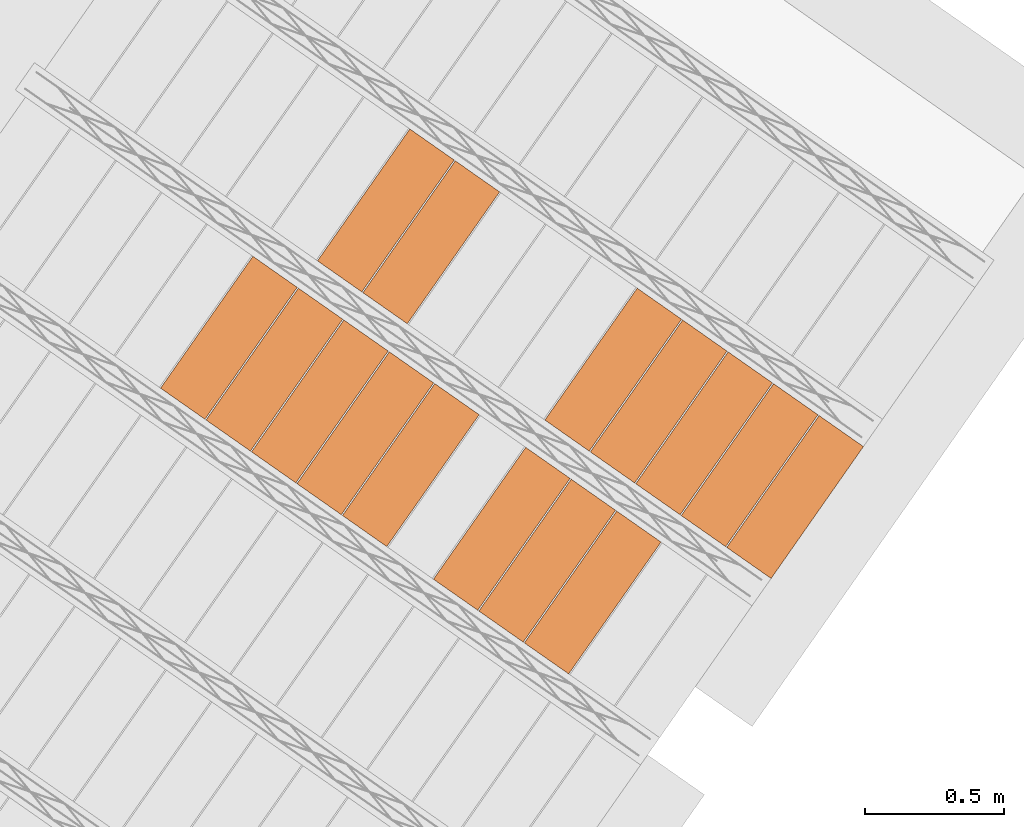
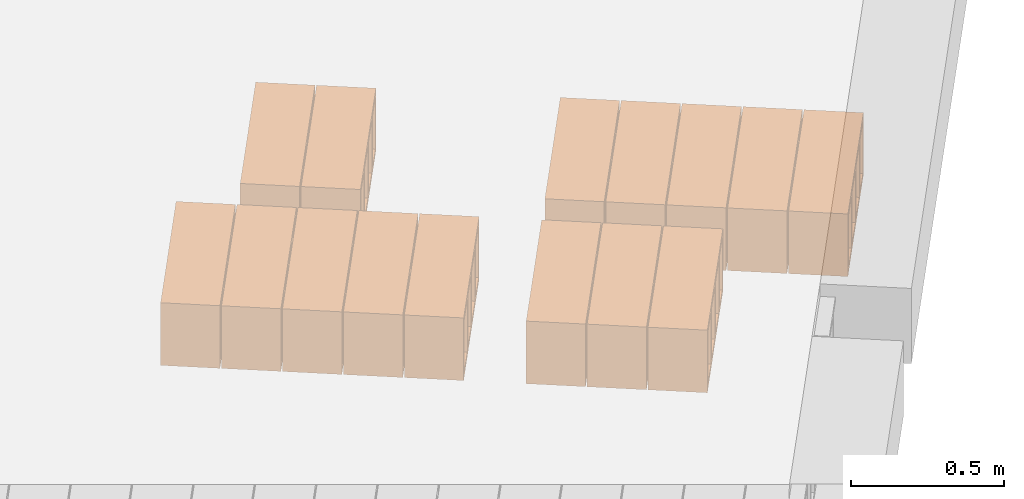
# One storey, part 39 of 46: 15 proxies.
"""IFC2X3 building model written with IfcOpenShell, lengths in metres."""

from ifc_helpers import new_model, entity, si_unit, converted_unit, derived_unit, direction, frame, origin, place, context, subcontext, project, spatial, polyline, outline, extrude, type_object, element, save


model = new_model("IFC2X3")

# Units and contexts
model_context = context("Model", 3, precision=1e-05, world=origin(), true_north=direction((6.123031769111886e-17, 1.0)))
body_context = subcontext(model_context, "Body", "Model", "MODEL_VIEW")
ifc_project = project(units=[si_unit("LENGTHUNIT", "METRE"), si_unit("AREAUNIT", "SQUARE_METRE"), si_unit("VOLUMEUNIT", "CUBIC_METRE"), converted_unit("PLANEANGLEUNIT", "DEGREE", entity("IfcPlaneAngleMeasure", 0.017453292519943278), si_unit("PLANEANGLEUNIT", "RADIAN"), dimensions=[0, 0, 0, 0, 0, 0, 0]), si_unit("MASSUNIT", "GRAM", prefix="KILO"), derived_unit("MASSDENSITYUNIT", [(si_unit("MASSUNIT", "GRAM", prefix="KILO"), 1), (si_unit("LENGTHUNIT", "METRE"), -3)]), derived_unit("IONCONCENTRATIONUNIT", [(si_unit("MASSUNIT", "GRAM", prefix="KILO"), 1), (si_unit("LENGTHUNIT", "METRE"), -3)]), derived_unit("MOMENTOFINERTIAUNIT", [(si_unit("LENGTHUNIT", "METRE"), 4)]), si_unit("TIMEUNIT", "SECOND"), si_unit("FREQUENCYUNIT", "HERTZ"), si_unit("THERMODYNAMICTEMPERATUREUNIT", "DEGREE_CELSIUS"), derived_unit("THERMALTRANSMITTANCEUNIT", [(si_unit("MASSUNIT", "GRAM", prefix="KILO"), 1), (si_unit("THERMODYNAMICTEMPERATUREUNIT", "KELVIN"), -1), (si_unit("TIMEUNIT", "SECOND"), -3)]), derived_unit("THERMALCONDUCTANCEUNIT", [(si_unit("MASSUNIT", "GRAM", prefix="KILO"), 1), (si_unit("THERMODYNAMICTEMPERATUREUNIT", "KELVIN"), -1), (si_unit("TIMEUNIT", "SECOND"), -3), (si_unit("LENGTHUNIT", "METRE"), 1)]), derived_unit("VOLUMETRICFLOWRATEUNIT", [(si_unit("LENGTHUNIT", "METRE", prefix="DECI"), 3), (si_unit("TIMEUNIT", "SECOND"), -1)]), derived_unit("MASSFLOWRATEUNIT", [(si_unit("MASSUNIT", "GRAM", prefix="KILO"), 1), (si_unit("TIMEUNIT", "SECOND"), -1)]), derived_unit("ROTATIONALFREQUENCYUNIT", [(si_unit("TIMEUNIT", "SECOND"), -1)]), si_unit("ELECTRICCURRENTUNIT", "AMPERE"), si_unit("ELECTRICVOLTAGEUNIT", "VOLT"), si_unit("POWERUNIT", "WATT"), si_unit("FORCEUNIT", "NEWTON", prefix="KILO"), si_unit("ILLUMINANCEUNIT", "LUX"), si_unit("LUMINOUSFLUXUNIT", "LUMEN"), si_unit("LUMINOUSINTENSITYUNIT", "CANDELA"), si_unit("ENERGYUNIT", "JOULE"), derived_unit("USERDEFINED", [(si_unit("MASSUNIT", "GRAM", prefix="KILO"), -1), (si_unit("LENGTHUNIT", "METRE"), -2), (si_unit("TIMEUNIT", "SECOND"), 3), (si_unit("LUMINOUSFLUXUNIT", "LUMEN"), 1)]), derived_unit("USERDEFINED", [(si_unit("MASSUNIT", "GRAM", prefix="KILO"), 1), (si_unit("TIMEUNIT", "SECOND"), -3), (si_unit("LENGTHUNIT", "METRE"), 3), (si_unit("ELECTRICCURRENTUNIT", "AMPERE"), -2)]), derived_unit("SOUNDPOWERUNIT", [(si_unit("MASSUNIT", "GRAM", prefix="KILO"), 1), (si_unit("TIMEUNIT", "SECOND"), -3), (si_unit("LENGTHUNIT", "METRE"), 2)]), derived_unit("SOUNDPRESSUREUNIT", [(si_unit("MASSUNIT", "GRAM", prefix="KILO"), 1), (si_unit("LENGTHUNIT", "METRE"), -1), (si_unit("TIMEUNIT", "SECOND"), -2)]), derived_unit("LINEARVELOCITYUNIT", [(si_unit("LENGTHUNIT", "METRE"), 1), (si_unit("TIMEUNIT", "SECOND"), -1)]), si_unit("PRESSUREUNIT", "PASCAL"), derived_unit("USERDEFINED", [(si_unit("MASSUNIT", "GRAM", prefix="KILO"), 1), (si_unit("LENGTHUNIT", "METRE"), -2), (si_unit("TIMEUNIT", "SECOND"), -2)]), derived_unit("LINEARFORCEUNIT", [(si_unit("MASSUNIT", "GRAM", prefix="KILO"), 1), (si_unit("TIMEUNIT", "SECOND"), -2)]), derived_unit("PLANARFORCEUNIT", [(si_unit("MASSUNIT", "GRAM", prefix="KILO"), 1), (si_unit("LENGTHUNIT", "METRE"), -1), (si_unit("TIMEUNIT", "SECOND"), -2)]), derived_unit("SPECIFICHEATCAPACITYUNIT", [(si_unit("THERMODYNAMICTEMPERATUREUNIT", "KELVIN"), -1), (si_unit("LENGTHUNIT", "METRE"), 2), (si_unit("TIMEUNIT", "SECOND"), -2)]), derived_unit("HEATFLUXDENSITYUNIT", [(si_unit("MASSUNIT", "GRAM", prefix="KILO"), 1), (si_unit("TIMEUNIT", "SECOND"), -3)]), derived_unit("HEATINGVALUEUNIT", [(si_unit("LENGTHUNIT", "METRE"), 2), (si_unit("TIMEUNIT", "SECOND"), -2)]), derived_unit("VAPORPERMEABILITYUNIT", [(si_unit("LENGTHUNIT", "METRE"), -1), (si_unit("TIMEUNIT", "SECOND"), 1)]), derived_unit("DYNAMICVISCOSITYUNIT", [(si_unit("MASSUNIT", "GRAM", prefix="KILO"), 1), (si_unit("TIMEUNIT", "SECOND"), -1), (si_unit("LENGTHUNIT", "METRE"), -1)]), derived_unit("THERMALEXPANSIONCOEFFICIENTUNIT", [(si_unit("THERMODYNAMICTEMPERATUREUNIT", "KELVIN"), -1)]), derived_unit("MODULUSOFELASTICITYUNIT", [(si_unit("MASSUNIT", "GRAM", prefix="KILO"), 1), (si_unit("LENGTHUNIT", "METRE"), -1), (si_unit("TIMEUNIT", "SECOND"), -2)]), derived_unit("ISOTHERMALMOISTURECAPACITYUNIT", [(si_unit("MASSUNIT", "GRAM", prefix="KILO"), -1), (si_unit("LENGTHUNIT", "METRE"), 3)]), derived_unit("MOISTUREDIFFUSIVITYUNIT", [(si_unit("TIMEUNIT", "SECOND"), -1), (si_unit("LENGTHUNIT", "METRE"), 2)]), derived_unit("MASSPERLENGTHUNIT", [(si_unit("MASSUNIT", "GRAM", prefix="KILO"), 1), (si_unit("LENGTHUNIT", "METRE"), -1)]), derived_unit("THERMALRESISTANCEUNIT", [(si_unit("MASSUNIT", "GRAM", prefix="KILO"), -1), (si_unit("TIMEUNIT", "SECOND"), 3), (si_unit("THERMODYNAMICTEMPERATUREUNIT", "KELVIN"), 1)]), derived_unit("ACCELERATIONUNIT", [(si_unit("LENGTHUNIT", "METRE"), 1), (si_unit("TIMEUNIT", "SECOND"), -2)]), derived_unit("ANGULARVELOCITYUNIT", [(si_unit("TIMEUNIT", "SECOND"), -1), (si_unit("PLANEANGLEUNIT", "RADIAN"), 1)]), derived_unit("LINEARSTIFFNESSUNIT", [(si_unit("MASSUNIT", "GRAM", prefix="KILO"), 1), (si_unit("TIMEUNIT", "SECOND"), -2)]), derived_unit("WARPINGCONSTANTUNIT", [(si_unit("LENGTHUNIT", "METRE"), 6)]), derived_unit("LINEARMOMENTUNIT", [(si_unit("MASSUNIT", "GRAM", prefix="KILO"), 1), (si_unit("LENGTHUNIT", "METRE"), 1), (si_unit("TIMEUNIT", "SECOND"), -2)]), derived_unit("TORQUEUNIT", [(si_unit("MASSUNIT", "GRAM", prefix="KILO"), 1), (si_unit("LENGTHUNIT", "METRE"), 2), (si_unit("TIMEUNIT", "SECOND"), -2)])], contexts=[model_context])

# Site, building, storey
site_placement = place(None, origin())
site = spatial("IfcSite", under=ifc_project, at=site_placement, Name="Default", CompositionType="ELEMENT")
building_placement = place(site_placement, origin())
building = spatial("IfcBuilding", under=site, at=building_placement, CompositionType="ELEMENT")
storey_placement = place(building_placement, frame((0.0, 0.0, 99.52000000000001)))
storey = spatial("IfcBuildingStorey", under=building, at=storey_placement, Name="F1", CompositionType="ELEMENT", Elevation=99.52000000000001)

# Proxies
building_element_proxy_type_1 = type_object("IfcBuildingElementProxyType", Name="Bovedilla 6-3 (Paño 4)", PredefinedType="USERDEFINED")
proxy_1_placement = place(storey_placement, origin())
element("IfcBuildingElementProxy", 1, at=proxy_1_placement, inside=storey, type_object=building_element_proxy_type_1, Name="Bovedilla 6-3 (Paño 4)", ObjectType="FORM", context=body_context, shape_type="SweptSolid", body=[
    extrude(outline(polyline([(-0.29, -0.12500000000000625), (0.29, -0.12500000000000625), (0.29, 0.12500000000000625), (-0.29, 0.12500000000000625), (-0.29, -0.12500000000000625)]), holes=[polyline([(0.27000000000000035, -0.10499999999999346), (0.15499999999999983, -0.10499999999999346), (0.15499999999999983, 0.10499999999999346), (0.27000000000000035, 0.10499999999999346), (0.27000000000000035, 0.042499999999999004), (0.27000000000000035, -0.10499999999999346)]), polyline([(0.009999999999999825, -0.10499999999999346), (0.009999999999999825, 0.10499999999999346), (0.13500000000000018, 0.10499999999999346), (0.13500000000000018, -0.10499999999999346), (0.009999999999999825, -0.10499999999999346)]), polyline([(-0.13500000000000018, 0.10499999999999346), (-0.009999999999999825, 0.10499999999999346), (-0.009999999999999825, -0.10499999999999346), (-0.13500000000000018, -0.10499999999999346), (-0.13500000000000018, 0.10499999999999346)]), polyline([(-0.27000000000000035, -0.10499999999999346), (-0.27000000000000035, 0.042499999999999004), (-0.27000000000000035, 0.10499999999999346), (-0.15499999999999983, 0.10499999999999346), (-0.15499999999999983, -0.10499999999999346), (-0.27000000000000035, -0.10499999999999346)])]), frame((8.830345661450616, -2.154173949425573, 0.3249999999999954), z_axis=(0.819152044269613, -0.5735764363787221, 0.0), x_axis=(-0.5735764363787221, -0.819152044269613, 0.0)), (0.0, 0.0, 1.0), 0.19499999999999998),
])
building_element_proxy_type_2 = type_object("IfcBuildingElementProxyType", Name="Bovedilla 6-4 (Paño 4)", PredefinedType="USERDEFINED")
proxy_2_placement = place(storey_placement, origin())
element("IfcBuildingElementProxy", 2, at=proxy_2_placement, inside=storey, type_object=building_element_proxy_type_2, Name="Bovedilla 6-4 (Paño 4)", ObjectType="FORM", context=body_context, shape_type="SweptSolid", body=[
    extrude(outline(polyline([(-0.29, -0.12500000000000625), (0.29, -0.12500000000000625), (0.29, 0.12500000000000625), (-0.29, 0.12500000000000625), (-0.29, -0.12500000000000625)]), holes=[polyline([(0.27000000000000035, -0.10499999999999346), (0.15499999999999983, -0.10499999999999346), (0.15499999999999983, 0.10499999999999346), (0.27000000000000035, 0.10499999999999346), (0.27000000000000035, 0.042499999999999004), (0.27000000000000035, -0.10499999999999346)]), polyline([(0.009999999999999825, -0.10499999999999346), (0.009999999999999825, 0.10499999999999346), (0.13500000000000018, 0.10499999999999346), (0.13500000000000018, -0.10499999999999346), (0.009999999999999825, -0.10499999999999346)]), polyline([(-0.13500000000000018, 0.10499999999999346), (-0.009999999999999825, 0.10499999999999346), (-0.009999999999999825, -0.10499999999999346), (-0.13500000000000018, -0.10499999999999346), (-0.13500000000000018, 0.10499999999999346)]), polyline([(-0.27000000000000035, -0.10499999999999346), (-0.27000000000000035, 0.042499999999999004), (-0.27000000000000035, 0.10499999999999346), (-0.15499999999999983, 0.10499999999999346), (-0.15499999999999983, -0.10499999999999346), (-0.27000000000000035, -0.10499999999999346)])]), frame((8.666515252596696, -2.0394586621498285, 0.3249999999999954), z_axis=(0.819152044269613, -0.5735764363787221, 0.0), x_axis=(-0.5735764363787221, -0.819152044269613, 0.0)), (0.0, 0.0, 1.0), 0.19499999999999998),
])
building_element_proxy_type_3 = type_object("IfcBuildingElementProxyType", Name="Bovedilla 6-5 (Paño 4)", PredefinedType="USERDEFINED")
proxy_3_placement = place(storey_placement, origin())
element("IfcBuildingElementProxy", 3, at=proxy_3_placement, inside=storey, type_object=building_element_proxy_type_3, Name="Bovedilla 6-5 (Paño 4)", ObjectType="FORM", context=body_context, shape_type="SweptSolid", body=[
    extrude(outline(polyline([(-0.29, -0.12500000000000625), (0.29, -0.12500000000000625), (0.29, 0.12500000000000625), (-0.29, 0.12500000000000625), (-0.29, -0.12500000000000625)]), holes=[polyline([(0.27000000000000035, -0.10499999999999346), (0.15499999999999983, -0.10499999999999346), (0.15499999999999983, 0.10499999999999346), (0.27000000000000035, 0.10499999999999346), (0.27000000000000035, 0.042499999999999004), (0.27000000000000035, -0.10499999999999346)]), polyline([(0.009999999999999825, -0.10499999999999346), (0.009999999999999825, 0.10499999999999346), (0.13500000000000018, 0.10499999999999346), (0.13500000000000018, -0.10499999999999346), (0.009999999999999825, -0.10499999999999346)]), polyline([(-0.13500000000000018, 0.10499999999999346), (-0.009999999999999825, 0.10499999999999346), (-0.009999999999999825, -0.10499999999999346), (-0.13500000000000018, -0.10499999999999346), (-0.13500000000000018, 0.10499999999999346)]), polyline([(-0.27000000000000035, -0.10499999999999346), (-0.27000000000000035, 0.042499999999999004), (-0.27000000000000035, 0.10499999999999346), (-0.15499999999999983, 0.10499999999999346), (-0.15499999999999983, -0.10499999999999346), (-0.27000000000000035, -0.10499999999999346)])]), frame((8.502684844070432, -1.9247433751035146, 0.3249999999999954), z_axis=(0.819152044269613, -0.5735764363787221, 0.0), x_axis=(-0.5735764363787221, -0.819152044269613, 0.0)), (0.0, 0.0, 1.0), 0.19499999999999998),
])
building_element_proxy_type_4 = type_object("IfcBuildingElementProxyType", Name="Bovedilla 6-7 (Paño 4)", PredefinedType="USERDEFINED")
proxy_4_placement = place(storey_placement, origin())
element("IfcBuildingElementProxy", 4, at=proxy_4_placement, inside=storey, type_object=building_element_proxy_type_4, Name="Bovedilla 6-7 (Paño 4)", ObjectType="FORM", context=body_context, shape_type="SweptSolid", body=[
    extrude(outline(polyline([(-0.29, -0.12500000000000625), (0.29, -0.12500000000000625), (0.29, 0.12500000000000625), (-0.29, 0.12500000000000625), (-0.29, -0.12500000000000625)]), holes=[polyline([(0.27000000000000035, -0.10499999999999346), (0.15499999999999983, -0.10499999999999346), (0.15499999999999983, 0.10499999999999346), (0.27000000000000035, 0.10499999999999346), (0.27000000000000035, 0.042499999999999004), (0.27000000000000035, -0.10499999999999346)]), polyline([(0.009999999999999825, -0.10499999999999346), (0.009999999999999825, 0.10499999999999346), (0.13500000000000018, 0.10499999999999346), (0.13500000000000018, -0.10499999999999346), (0.009999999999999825, -0.10499999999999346)]), polyline([(-0.13500000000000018, 0.10499999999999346), (-0.009999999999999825, 0.10499999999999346), (-0.009999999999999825, -0.10499999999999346), (-0.13500000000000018, -0.10499999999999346), (-0.13500000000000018, 0.10499999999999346)]), polyline([(-0.27000000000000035, -0.10499999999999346), (-0.27000000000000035, 0.042499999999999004), (-0.27000000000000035, 0.10499999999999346), (-0.15499999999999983, 0.10499999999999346), (-0.15499999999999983, -0.10499999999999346), (-0.27000000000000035, -0.10499999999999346)])]), frame((8.175024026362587, -1.695312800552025, 0.3249999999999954), z_axis=(0.819152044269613, -0.5735764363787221, 0.0), x_axis=(-0.5735764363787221, -0.819152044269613, 0.0)), (0.0, 0.0, 1.0), 0.19499999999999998),
])
building_element_proxy_type_5 = type_object("IfcBuildingElementProxyType", Name="Bovedilla 6-8 (Paño 4)", PredefinedType="USERDEFINED")
proxy_5_placement = place(storey_placement, origin())
element("IfcBuildingElementProxy", 5, at=proxy_5_placement, inside=storey, type_object=building_element_proxy_type_5, Name="Bovedilla 6-8 (Paño 4)", ObjectType="FORM", context=body_context, shape_type="SweptSolid", body=[
    extrude(outline(polyline([(-0.29, -0.12500000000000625), (0.29, -0.12500000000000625), (0.29, 0.12500000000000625), (-0.29, 0.12500000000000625), (-0.29, -0.12500000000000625)]), holes=[polyline([(0.27000000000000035, -0.10499999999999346), (0.15499999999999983, -0.10499999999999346), (0.15499999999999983, 0.10499999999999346), (0.27000000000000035, 0.10499999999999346), (0.27000000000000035, 0.042499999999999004), (0.27000000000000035, -0.10499999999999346)]), polyline([(0.009999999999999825, -0.10499999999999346), (0.009999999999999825, 0.10499999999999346), (0.13500000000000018, 0.10499999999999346), (0.13500000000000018, -0.10499999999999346), (0.009999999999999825, -0.10499999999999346)]), polyline([(-0.13500000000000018, 0.10499999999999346), (-0.009999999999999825, 0.10499999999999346), (-0.009999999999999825, -0.10499999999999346), (-0.13500000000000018, -0.10499999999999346), (-0.13500000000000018, 0.10499999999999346)]), polyline([(-0.27000000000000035, -0.10499999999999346), (-0.27000000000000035, 0.042499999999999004), (-0.27000000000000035, 0.10499999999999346), (-0.15499999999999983, 0.10499999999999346), (-0.15499999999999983, -0.10499999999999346), (-0.27000000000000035, -0.10499999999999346)])]), frame((8.011193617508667, -1.5805975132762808, 0.3249999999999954), z_axis=(0.819152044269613, -0.5735764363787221, 0.0), x_axis=(-0.5735764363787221, -0.819152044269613, 0.0)), (0.0, 0.0, 1.0), 0.19499999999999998),
])
building_element_proxy_type_6 = type_object("IfcBuildingElementProxyType", Name="Bovedilla 6-9 (Paño 4)", PredefinedType="USERDEFINED")
proxy_6_placement = place(storey_placement, origin())
element("IfcBuildingElementProxy", 6, at=proxy_6_placement, inside=storey, type_object=building_element_proxy_type_6, Name="Bovedilla 6-9 (Paño 4)", ObjectType="FORM", context=body_context, shape_type="SweptSolid", body=[
    extrude(outline(polyline([(-0.29, -0.12500000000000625), (0.29, -0.12500000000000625), (0.29, 0.12500000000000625), (-0.29, 0.12500000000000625), (-0.29, -0.12500000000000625)]), holes=[polyline([(0.27000000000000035, -0.10499999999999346), (0.15499999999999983, -0.10499999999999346), (0.15499999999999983, 0.10499999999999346), (0.27000000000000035, 0.10499999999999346), (0.27000000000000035, 0.042499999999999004), (0.27000000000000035, -0.10499999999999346)]), polyline([(0.009999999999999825, -0.10499999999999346), (0.009999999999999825, 0.10499999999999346), (0.13500000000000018, 0.10499999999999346), (0.13500000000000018, -0.10499999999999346), (0.009999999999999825, -0.10499999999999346)]), polyline([(-0.13500000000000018, 0.10499999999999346), (-0.009999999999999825, 0.10499999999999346), (-0.009999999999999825, -0.10499999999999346), (-0.13500000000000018, -0.10499999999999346), (-0.13500000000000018, 0.10499999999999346)]), polyline([(-0.27000000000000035, -0.10499999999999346), (-0.27000000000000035, 0.042499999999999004), (-0.27000000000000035, 0.10499999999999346), (-0.15499999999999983, 0.10499999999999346), (-0.15499999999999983, -0.10499999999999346), (-0.27000000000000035, -0.10499999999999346)])]), frame((7.847363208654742, -1.4658822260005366, 0.3249999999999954), z_axis=(0.819152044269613, -0.5735764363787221, 0.0), x_axis=(-0.5735764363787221, -0.819152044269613, 0.0)), (0.0, 0.0, 1.0), 0.19499999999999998),
])
building_element_proxy_type_7 = type_object("IfcBuildingElementProxyType", Name="Bovedilla 6-10 (Paño 4)", PredefinedType="USERDEFINED")
proxy_7_placement = place(storey_placement, origin())
element("IfcBuildingElementProxy", 7, at=proxy_7_placement, inside=storey, type_object=building_element_proxy_type_7, Name="Bovedilla 6-10 (Paño 4)", ObjectType="FORM", context=body_context, shape_type="SweptSolid", body=[
    extrude(outline(polyline([(-0.29, -0.12500000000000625), (0.29, -0.12500000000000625), (0.29, 0.12500000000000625), (-0.29, 0.12500000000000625), (-0.29, -0.12500000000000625)]), holes=[polyline([(0.27000000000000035, -0.10499999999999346), (0.15499999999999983, -0.10499999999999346), (0.15499999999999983, 0.10499999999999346), (0.27000000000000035, 0.10499999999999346), (0.27000000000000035, 0.042499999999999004), (0.27000000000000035, -0.10499999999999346)]), polyline([(0.009999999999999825, -0.10499999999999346), (0.009999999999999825, 0.10499999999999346), (0.13500000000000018, 0.10499999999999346), (0.13500000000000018, -0.10499999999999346), (0.009999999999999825, -0.10499999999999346)]), polyline([(-0.13500000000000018, 0.10499999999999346), (-0.009999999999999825, 0.10499999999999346), (-0.009999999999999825, -0.10499999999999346), (-0.13500000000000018, -0.10499999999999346), (-0.13500000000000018, 0.10499999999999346)]), polyline([(-0.27000000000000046, -0.10499999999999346), (-0.27000000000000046, 0.042499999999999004), (-0.27000000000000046, 0.10499999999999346), (-0.15499999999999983, 0.10499999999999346), (-0.15499999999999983, -0.10499999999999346), (-0.27000000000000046, -0.10499999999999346)])]), frame((7.683532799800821, -1.3511669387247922, 0.3249999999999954), z_axis=(0.819152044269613, -0.5735764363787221, 0.0), x_axis=(-0.5735764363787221, -0.819152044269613, 0.0)), (0.0, 0.0, 1.0), 0.19499999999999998),
])
building_element_proxy_type_8 = type_object("IfcBuildingElementProxyType", Name="Bovedilla 6-11 (Paño 4)", PredefinedType="USERDEFINED")
proxy_8_placement = place(storey_placement, origin())
element("IfcBuildingElementProxy", 8, at=proxy_8_placement, inside=storey, type_object=building_element_proxy_type_8, Name="Bovedilla 6-11 (Paño 4)", ObjectType="FORM", context=body_context, shape_type="SweptSolid", body=[
    extrude(outline(polyline([(-0.29, -0.12500000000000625), (0.29, -0.12500000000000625), (0.29, 0.12500000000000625), (-0.29, 0.12500000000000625), (-0.29, -0.12500000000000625)]), holes=[polyline([(0.27000000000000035, -0.10499999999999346), (0.15499999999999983, -0.10499999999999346), (0.15499999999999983, 0.10499999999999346), (0.27000000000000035, 0.10499999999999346), (0.27000000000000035, 0.042499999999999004), (0.27000000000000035, -0.10499999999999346)]), polyline([(0.009999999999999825, -0.10499999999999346), (0.009999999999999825, 0.10499999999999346), (0.13500000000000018, 0.10499999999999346), (0.13500000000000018, -0.10499999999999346), (0.009999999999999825, -0.10499999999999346)]), polyline([(-0.1350000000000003, 0.10499999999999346), (-0.009999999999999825, 0.10499999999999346), (-0.009999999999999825, -0.10499999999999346), (-0.1350000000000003, -0.10499999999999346), (-0.1350000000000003, 0.10499999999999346)]), polyline([(-0.27000000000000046, -0.10499999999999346), (-0.27000000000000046, 0.042499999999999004), (-0.27000000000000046, 0.10499999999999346), (-0.15499999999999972, 0.10499999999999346), (-0.15499999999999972, -0.10499999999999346), (-0.27000000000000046, -0.10499999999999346)])]), frame((7.519702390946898, -1.236451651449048, 0.3249999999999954), z_axis=(0.819152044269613, -0.5735764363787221, 0.0), x_axis=(-0.5735764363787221, -0.819152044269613, 0.0)), (0.0, 0.0, 1.0), 0.19499999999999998),
])
building_element_proxy_type_9 = type_object("IfcBuildingElementProxyType", Name="Bovedilla 7-1 (Paño 4)", PredefinedType="USERDEFINED")
proxy_9_placement = place(storey_placement, origin())
element("IfcBuildingElementProxy", 9, at=proxy_9_placement, inside=storey, type_object=building_element_proxy_type_9, Name="Bovedilla 7-1 (Paño 4)", ObjectType="FORM", context=body_context, shape_type="SweptSolid", body=[
    extrude(outline(polyline([(-0.29, -0.12500000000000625), (0.29, -0.12500000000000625), (0.29, 0.12500000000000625), (-0.29, 0.12500000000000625), (-0.29, -0.12500000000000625)]), holes=[polyline([(0.27000000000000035, -0.10499999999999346), (0.15499999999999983, -0.10499999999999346), (0.15499999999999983, 0.10499999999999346), (0.27000000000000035, 0.10499999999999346), (0.27000000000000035, 0.042499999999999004), (0.27000000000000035, -0.10499999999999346)]), polyline([(0.009999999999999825, -0.10499999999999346), (0.009999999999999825, 0.10499999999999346), (0.13500000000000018, 0.10499999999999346), (0.13500000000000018, -0.10499999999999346), (0.009999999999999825, -0.10499999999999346)]), polyline([(-0.13500000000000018, 0.10499999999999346), (-0.009999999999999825, 0.10499999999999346), (-0.009999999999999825, -0.10499999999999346), (-0.13500000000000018, -0.10499999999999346), (-0.13500000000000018, 0.10499999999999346)]), polyline([(-0.27000000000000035, -0.10499999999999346), (-0.27000000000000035, 0.042499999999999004), (-0.27000000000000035, 0.10499999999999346), (-0.15499999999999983, 0.10499999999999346), (-0.15499999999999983, -0.10499999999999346), (-0.27000000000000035, -0.10499999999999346)])]), frame((9.559509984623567, -1.810198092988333, 0.3249999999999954), z_axis=(0.819152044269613, -0.5735764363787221, 0.0), x_axis=(-0.5735764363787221, -0.819152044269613, 0.0)), (0.0, 0.0, 1.0), 0.19499999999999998),
])
building_element_proxy_type_10 = type_object("IfcBuildingElementProxyType", Name="Bovedilla 7-2 (Paño 4)", PredefinedType="USERDEFINED")
proxy_10_placement = place(storey_placement, origin())
element("IfcBuildingElementProxy", 10, at=proxy_10_placement, inside=storey, type_object=building_element_proxy_type_10, Name="Bovedilla 7-2 (Paño 4)", ObjectType="FORM", context=body_context, shape_type="SweptSolid", body=[
    extrude(outline(polyline([(-0.29, -0.12500000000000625), (0.29, -0.12500000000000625), (0.29, 0.12500000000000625), (-0.29, 0.12500000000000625), (-0.29, -0.12500000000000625)]), holes=[polyline([(0.27000000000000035, -0.10499999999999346), (0.15499999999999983, -0.10499999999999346), (0.15499999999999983, 0.10499999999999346), (0.27000000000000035, 0.10499999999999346), (0.27000000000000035, 0.042499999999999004), (0.27000000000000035, -0.10499999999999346)]), polyline([(0.009999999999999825, -0.10499999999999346), (0.009999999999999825, 0.10499999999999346), (0.13500000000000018, 0.10499999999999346), (0.13500000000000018, -0.10499999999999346), (0.009999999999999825, -0.10499999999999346)]), polyline([(-0.13500000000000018, 0.10499999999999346), (-0.009999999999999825, 0.10499999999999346), (-0.009999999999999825, -0.10499999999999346), (-0.13500000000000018, -0.10499999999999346), (-0.13500000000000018, 0.10499999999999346)]), polyline([(-0.27000000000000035, -0.10499999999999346), (-0.27000000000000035, 0.042499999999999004), (-0.27000000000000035, 0.10499999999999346), (-0.15499999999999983, 0.10499999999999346), (-0.15499999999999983, -0.10499999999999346), (-0.27000000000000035, -0.10499999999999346)])]), frame((9.395679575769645, -1.6954828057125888, 0.3249999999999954), z_axis=(0.819152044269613, -0.5735764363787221, 0.0), x_axis=(-0.5735764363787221, -0.819152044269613, 0.0)), (0.0, 0.0, 1.0), 0.19499999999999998),
])
building_element_proxy_type_11 = type_object("IfcBuildingElementProxyType", Name="Bovedilla 7-3 (Paño 4)", PredefinedType="USERDEFINED")
proxy_11_placement = place(storey_placement, origin())
element("IfcBuildingElementProxy", 11, at=proxy_11_placement, inside=storey, type_object=building_element_proxy_type_11, Name="Bovedilla 7-3 (Paño 4)", ObjectType="FORM", context=body_context, shape_type="SweptSolid", body=[
    extrude(outline(polyline([(-0.29, -0.12500000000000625), (0.29, -0.12500000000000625), (0.29, 0.12500000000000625), (-0.29, 0.12500000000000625), (-0.29, -0.12500000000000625)]), holes=[polyline([(0.27000000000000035, -0.10499999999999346), (0.15499999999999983, -0.10499999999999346), (0.15499999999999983, 0.10499999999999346), (0.27000000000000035, 0.10499999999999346), (0.27000000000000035, 0.042499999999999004), (0.27000000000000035, -0.10499999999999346)]), polyline([(0.009999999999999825, -0.10499999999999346), (0.009999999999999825, 0.10499999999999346), (0.13500000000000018, 0.10499999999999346), (0.13500000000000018, -0.10499999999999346), (0.009999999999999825, -0.10499999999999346)]), polyline([(-0.13500000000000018, 0.10499999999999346), (-0.009999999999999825, 0.10499999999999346), (-0.009999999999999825, -0.10499999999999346), (-0.13500000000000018, -0.10499999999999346), (-0.13500000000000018, 0.10499999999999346)]), polyline([(-0.27000000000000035, -0.10499999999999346), (-0.27000000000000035, 0.042499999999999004), (-0.27000000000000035, 0.10499999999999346), (-0.15499999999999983, 0.10499999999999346), (-0.15499999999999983, -0.10499999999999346), (-0.27000000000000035, -0.10499999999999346)])]), frame((9.231849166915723, -1.5807675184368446, 0.3249999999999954), z_axis=(0.819152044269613, -0.5735764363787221, 0.0), x_axis=(-0.5735764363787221, -0.819152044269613, 0.0)), (0.0, 0.0, 1.0), 0.19499999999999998),
])
building_element_proxy_type_12 = type_object("IfcBuildingElementProxyType", Name="Bovedilla 7-4 (Paño 4)", PredefinedType="USERDEFINED")
proxy_12_placement = place(storey_placement, origin())
element("IfcBuildingElementProxy", 12, at=proxy_12_placement, inside=storey, type_object=building_element_proxy_type_12, Name="Bovedilla 7-4 (Paño 4)", ObjectType="FORM", context=body_context, shape_type="SweptSolid", body=[
    extrude(outline(polyline([(-0.29, -0.12500000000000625), (0.29, -0.12500000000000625), (0.29, 0.12500000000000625), (-0.29, 0.12500000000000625), (-0.29, -0.12500000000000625)]), holes=[polyline([(0.27000000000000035, -0.10499999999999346), (0.15499999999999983, -0.10499999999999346), (0.15499999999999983, 0.10499999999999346), (0.27000000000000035, 0.10499999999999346), (0.27000000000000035, 0.042499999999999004), (0.27000000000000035, -0.10499999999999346)]), polyline([(0.009999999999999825, -0.10499999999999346), (0.009999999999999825, 0.10499999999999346), (0.13500000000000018, 0.10499999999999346), (0.13500000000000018, -0.10499999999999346), (0.009999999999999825, -0.10499999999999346)]), polyline([(-0.13500000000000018, 0.10499999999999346), (-0.009999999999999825, 0.10499999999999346), (-0.009999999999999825, -0.10499999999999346), (-0.13500000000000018, -0.10499999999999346), (-0.13500000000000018, 0.10499999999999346)]), polyline([(-0.27000000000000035, -0.10499999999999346), (-0.27000000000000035, 0.042499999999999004), (-0.27000000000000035, 0.10499999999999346), (-0.15499999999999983, 0.10499999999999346), (-0.15499999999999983, -0.10499999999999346), (-0.27000000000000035, -0.10499999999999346)])]), frame((9.0680187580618, -1.4660522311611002, 0.3249999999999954), z_axis=(0.819152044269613, -0.5735764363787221, 0.0), x_axis=(-0.5735764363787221, -0.819152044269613, 0.0)), (0.0, 0.0, 1.0), 0.19499999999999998),
])
building_element_proxy_type_13 = type_object("IfcBuildingElementProxyType", Name="Bovedilla 7-5 (Paño 4)", PredefinedType="USERDEFINED")
proxy_13_placement = place(storey_placement, origin())
element("IfcBuildingElementProxy", 13, at=proxy_13_placement, inside=storey, type_object=building_element_proxy_type_13, Name="Bovedilla 7-5 (Paño 4)", ObjectType="FORM", context=body_context, shape_type="SweptSolid", body=[
    extrude(outline(polyline([(-0.29, -0.12500000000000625), (0.29, -0.12500000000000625), (0.29, 0.12500000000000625), (-0.29, 0.12500000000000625), (-0.29, -0.12500000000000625)]), holes=[polyline([(0.27000000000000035, -0.10499999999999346), (0.15499999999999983, -0.10499999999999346), (0.15499999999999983, 0.10499999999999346), (0.27000000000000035, 0.10499999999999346), (0.27000000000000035, 0.042499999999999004), (0.27000000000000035, -0.10499999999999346)]), polyline([(0.009999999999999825, -0.10499999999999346), (0.009999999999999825, 0.10499999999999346), (0.13500000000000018, 0.10499999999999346), (0.13500000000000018, -0.10499999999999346), (0.009999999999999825, -0.10499999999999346)]), polyline([(-0.13500000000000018, 0.10499999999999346), (-0.009999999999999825, 0.10499999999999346), (-0.009999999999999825, -0.10499999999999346), (-0.13500000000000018, -0.10499999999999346), (-0.13500000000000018, 0.10499999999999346)]), polyline([(-0.27000000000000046, -0.10499999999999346), (-0.27000000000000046, 0.042499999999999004), (-0.27000000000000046, 0.10499999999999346), (-0.15499999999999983, 0.10499999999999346), (-0.15499999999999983, -0.10499999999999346), (-0.27000000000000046, -0.10499999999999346)])]), frame((8.904188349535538, -1.3513369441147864, 0.3249999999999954), z_axis=(0.819152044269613, -0.5735764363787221, 0.0), x_axis=(-0.5735764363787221, -0.819152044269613, 0.0)), (0.0, 0.0, 1.0), 0.19499999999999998),
])
building_element_proxy_type_14 = type_object("IfcBuildingElementProxyType", Name="Bovedilla 7-9 (Paño 4)", PredefinedType="USERDEFINED")
proxy_14_placement = place(storey_placement, origin())
element("IfcBuildingElementProxy", 14, at=proxy_14_placement, inside=storey, type_object=building_element_proxy_type_14, Name="Bovedilla 7-9 (Paño 4)", ObjectType="FORM", context=body_context, shape_type="SweptSolid", body=[
    extrude(outline(polyline([(-0.28999999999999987, -0.12500000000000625), (0.28999999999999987, -0.12500000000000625), (0.28999999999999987, 0.12500000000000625), (-0.28999999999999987, 0.12500000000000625), (-0.28999999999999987, -0.12500000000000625)]), holes=[polyline([(0.27000000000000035, -0.10499999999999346), (0.1549999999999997, -0.10499999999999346), (0.1549999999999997, 0.10499999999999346), (0.27000000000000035, 0.10499999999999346), (0.27000000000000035, 0.042499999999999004), (0.27000000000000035, -0.10499999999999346)]), polyline([(0.009999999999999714, -0.10499999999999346), (0.009999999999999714, 0.10499999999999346), (0.13500000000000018, 0.10499999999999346), (0.13500000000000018, -0.10499999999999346), (0.009999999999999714, -0.10499999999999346)]), polyline([(-0.13500000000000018, 0.10499999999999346), (-0.009999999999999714, 0.10499999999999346), (-0.009999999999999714, -0.10499999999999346), (-0.13500000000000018, -0.10499999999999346), (-0.13500000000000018, 0.10499999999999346)]), polyline([(-0.27000000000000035, -0.10499999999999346), (-0.27000000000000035, 0.042499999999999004), (-0.27000000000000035, 0.10499999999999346), (-0.1549999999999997, 0.10499999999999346), (-0.1549999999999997, -0.10499999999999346), (-0.27000000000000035, -0.10499999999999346)])]), frame((8.248866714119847, -0.8924757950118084, 0.3249999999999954), z_axis=(0.8191520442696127, -0.5735764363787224, 0.0), x_axis=(-0.5735764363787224, -0.8191520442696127, 0.0)), (0.0, 0.0, 1.0), 0.19499999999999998),
])
building_element_proxy_type_15 = type_object("IfcBuildingElementProxyType", Name="Bovedilla 7-10 (Paño 4)", PredefinedType="USERDEFINED")
proxy_15_placement = place(storey_placement, origin())
element("IfcBuildingElementProxy", 15, at=proxy_15_placement, inside=storey, type_object=building_element_proxy_type_15, Name="Bovedilla 7-10 (Paño 4)", ObjectType="FORM", context=body_context, shape_type="SweptSolid", body=[
    extrude(outline(polyline([(-0.2899999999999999, -0.12500000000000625), (0.28999999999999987, -0.12500000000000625), (0.28999999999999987, 0.12500000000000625), (-0.2899999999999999, 0.12500000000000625), (-0.2899999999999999, -0.12500000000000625)]), holes=[polyline([(0.27000000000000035, -0.10499999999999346), (0.15499999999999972, -0.10499999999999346), (0.15499999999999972, 0.10499999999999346), (0.27000000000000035, 0.10499999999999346), (0.27000000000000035, 0.042499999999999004), (0.27000000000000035, -0.10499999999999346)]), polyline([(0.009999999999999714, -0.10499999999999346), (0.009999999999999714, 0.10499999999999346), (0.13500000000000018, 0.10499999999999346), (0.13500000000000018, -0.10499999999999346), (0.009999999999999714, -0.10499999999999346)]), polyline([(-0.13500000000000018, 0.10499999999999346), (-0.009999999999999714, 0.10499999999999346), (-0.009999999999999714, -0.10499999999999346), (-0.13500000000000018, -0.10499999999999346), (-0.13500000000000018, 0.10499999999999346)]), polyline([(-0.2700000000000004, -0.10499999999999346), (-0.2700000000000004, 0.042499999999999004), (-0.2700000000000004, 0.10499999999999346), (-0.15499999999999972, 0.10499999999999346), (-0.15499999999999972, -0.10499999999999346), (-0.2700000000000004, -0.10499999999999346)])]), frame((8.085036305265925, -0.7777605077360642, 0.3249999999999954), z_axis=(0.8191520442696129, -0.5735764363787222, 0.0), x_axis=(-0.5735764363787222, -0.8191520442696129, 0.0)), (0.0, 0.0, 1.0), 0.19499999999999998),
])

save(model, "model.ifc")
